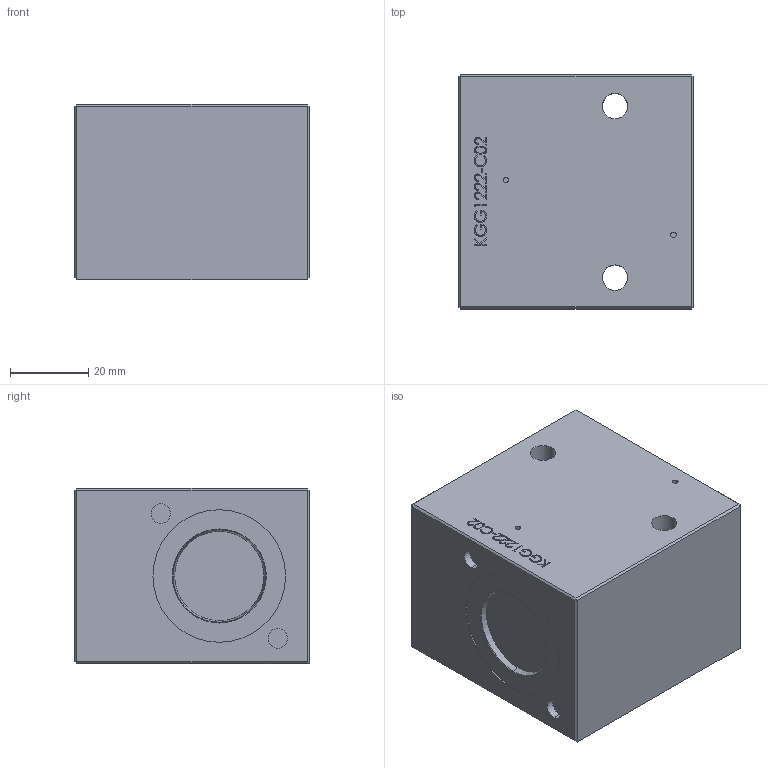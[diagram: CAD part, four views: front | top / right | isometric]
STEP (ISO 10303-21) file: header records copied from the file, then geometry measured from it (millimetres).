
FILE_DESCRIPTION (( 'STEP AP214' ), '1' );
FILE_NAME ('KGG1222-C02.STEP', '2016-11-25T10:40:54', ( '' ), ( '' ), 'SwSTEP 2.0', 'SolidWorks 2014', '' );
FILE_SCHEMA (( 'AUTOMOTIVE_DESIGN' ));
Length unit declared in the file: millimetre
Products named in the file (2): KGG1222-C02
Bounding box: 60 x 60 x 45 mm (x, y, z)
Volume: 156192.8 mm3; surface area: 20133.7 mm2
Topology: 1 solids, 1 shells, 206 faces, 518 edges, 338 vertices
Faces by surface type: plane 114, bspline 66, cylinder 22, cone 2, torus 2
Entity records: 10565 total; most frequent: CARTESIAN_POINT 5866, ORIENTED_EDGE 1036, DIRECTION 722, EDGE_CURVE 518, VERTEX_POINT 338, VECTOR 334, LINE 334, EDGE_LOOP 234
